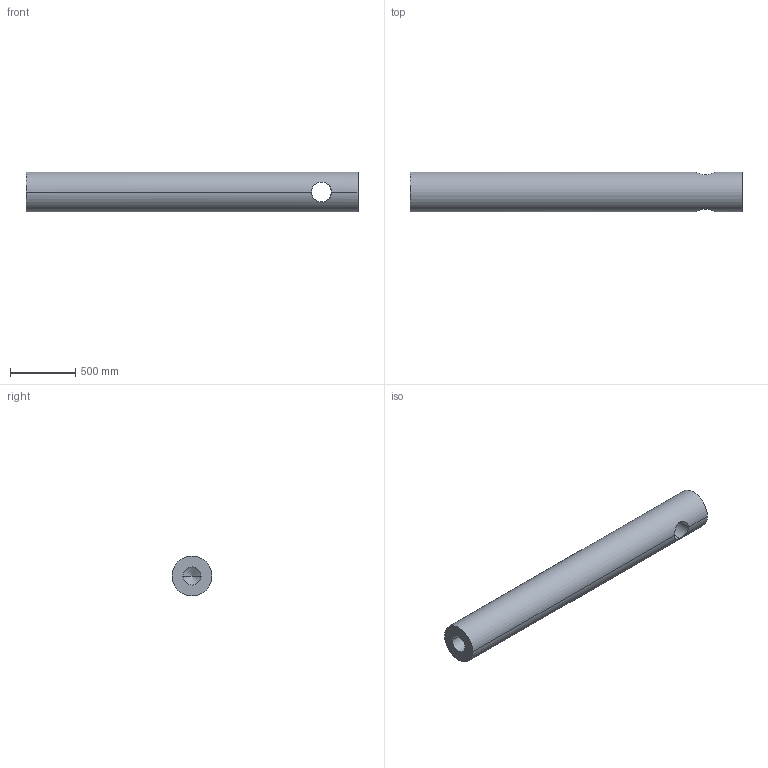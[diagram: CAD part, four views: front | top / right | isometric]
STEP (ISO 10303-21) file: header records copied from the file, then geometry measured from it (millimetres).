
FILE_DESCRIPTION (( 'STEP AP203' ), '1' );
FILE_NAME ('3MP-100.STEP', '2011-07-04T05:49:42', ( 'Darius' ), ( '' ), 'SwSTEP 2.0', 'SolidWorks 2003240', '' );
FILE_SCHEMA (( 'CONFIG_CONTROL_DESIGN' ));
Length unit declared in the file: inch
Products named in the file (1): 3MP-100
Bounding box: 2540 x 304.8 x 304.8 mm (x, y, z)
Volume: 175614578 mm3; surface area: 2807758.8 mm2
Topology: 1 solids, 1 shells, 12 faces, 34 edges, 21 vertices
Faces by surface type: cylinder 8, plane 2, cone 2
Entity records: 903 total; most frequent: CARTESIAN_POINT 524, ORIENTED_EDGE 64, DIRECTION 58, EDGE_CURVE 32, AXIS2_PLACEMENT_3D 23, VERTEX_POINT 21, EDGE_LOOP 15, FACE_OUTER_BOUND 12
